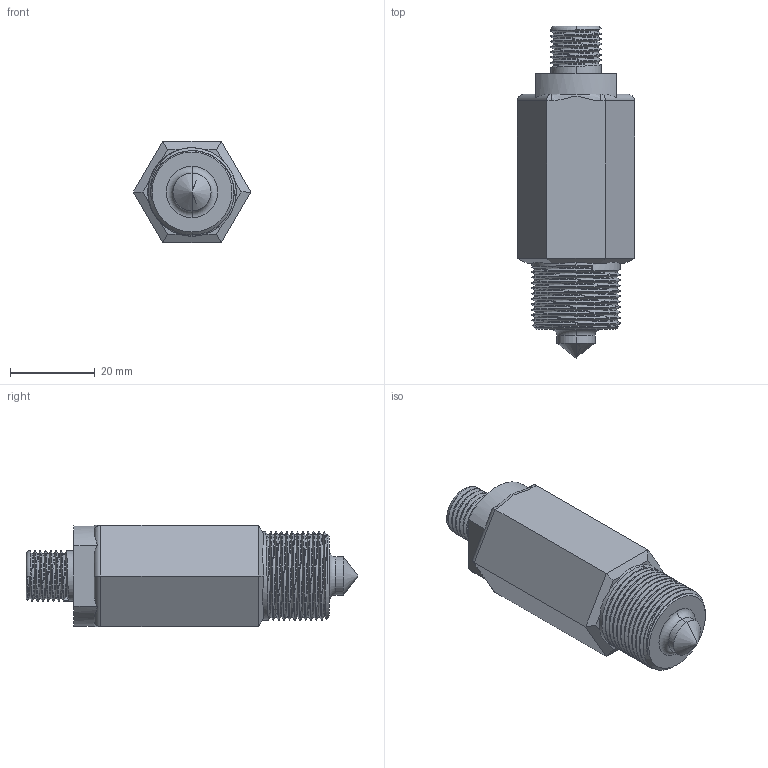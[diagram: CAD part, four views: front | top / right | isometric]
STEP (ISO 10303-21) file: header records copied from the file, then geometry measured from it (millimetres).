
FILE_DESCRIPTION (( 'STEP AP203' ), '1' );
FILE_NAME ('IL-OSS-BA.STEP', '2026-07-26T13:52:22', ( '' ), ( '' ), 'SwSTEP 2.0', 'SolidWorks 2021', '' );
FILE_SCHEMA (( 'CONFIG_CONTROL_DESIGN' ));
Length unit declared in the file: millimetre
Products named in the file (1): IL-OSS-BA
Bounding box: 27.71 x 78.5 x 24 mm (x, y, z)
Volume: 27697.3 mm3; surface area: 6945.8 mm2
Topology: 1 solids, 1 shells, 102 faces, 273 edges, 173 vertices
Faces by surface type: cylinder 52, plane 32, bspline 8, torus 6, cone 4
Entity records: 6274 total; most frequent: CARTESIAN_POINT 4002, ORIENTED_EDGE 542, DIRECTION 386, EDGE_CURVE 271, VERTEX_POINT 173, AXIS2_PLACEMENT_3D 140, VECTOR 106, LINE 106
